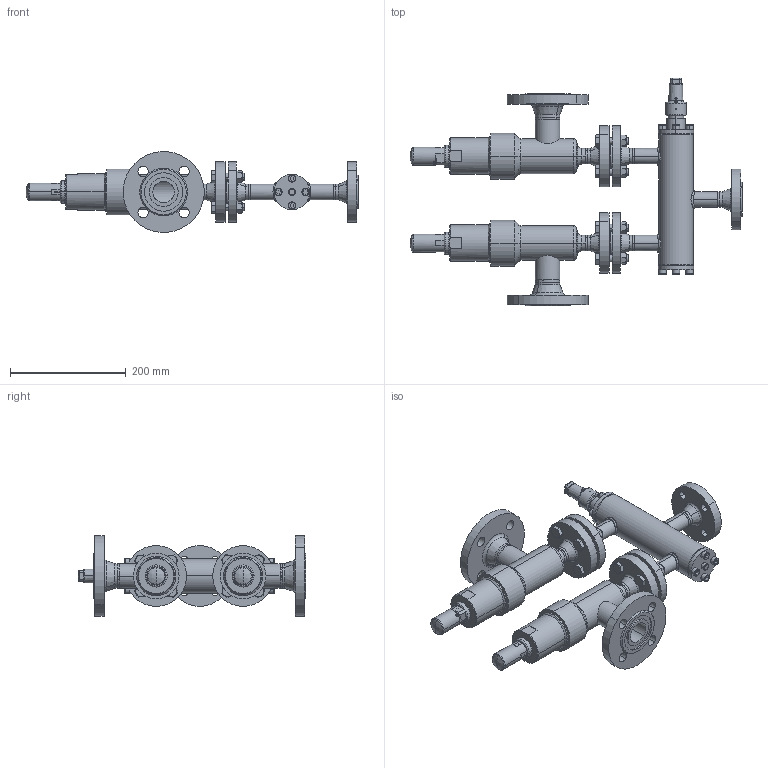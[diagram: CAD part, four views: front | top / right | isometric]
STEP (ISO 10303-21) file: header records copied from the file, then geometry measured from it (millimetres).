
FILE_DESCRIPTION (( 'STEP AP214' ), '1' );
FILE_NAME ('WVB-SVUB_1C6FL_DN20_DIN-FL.STEP', '2010-09-09T12:04:14', ( 'Eckhard Grams' ), ( 'AWP Kälte Klima Armaturen GmbH' ), 'SwSTEP 2.0', 'SolidWorks 2002296', '' );
FILE_SCHEMA (( 'AUTOMOTIVE_DESIGN' ));
Length unit declared in the file: millimetre
Products named in the file (31): WVB-SVUB_1C6FL_DN20_DIN-FL; WVB23020D11-DN020_DIN-FL-N-F_PS40_Standard; Geh,kpl24020E11-DN20_DIN-FL-N-F_PS40_Standard; Geh,kpl24000E11_DN20_R1_PS40_Standard; Gehäuse24000E11-DN20_R1_PS40_Standard; Rohrstutzen-24000E11-DN20_R1_Standard; Schw-24000E11-DN20_Standard; Flansch-DIN2635-Feder_PS40_DIN-Flansch-DN020_PS40-Feder; bead24020-11-2_Standard; bead24020-11-3_Standard; bead24020-11-1_Standard; AVB16300K10_Deck+Schr-DN10-20_Standard; Deckel16300K10-DN10-20_Standard; Zylinderschraube-DIN912_M 8x  16; Kappe 96300E10_DN6-20 (M27x2)_Standard; WVB-R23000K10_Deck+Schr-DN10-20_Standard; Deckel24000E10-DN10-20_Standard; Zylinderschraube-DIN912_M 8x  25; SVUB 45720D11-DN20(32)_DIN; Gehkpl 45720E11-5030001; Rohrstutzen-A 45700E11-5036004_DN20(32)_Standard; Flansch-DIN2635-Nut_PS40_DIN-Flansch-DN020_PS40-Nut; Geh 45700E11-5034004_DN20; Flansch-DIN2635-Nut_PS40_DIN-Flansch-DN032_PS40-Nut; bead Geh,kpl 45720E11-1_Standard; bead Geh,kpl 45720E11-2_Standard; Flachdichtg-Alu-DN20-25; Haube 45700E11-5260003_DN20-25; Kappe SVA-SVU-ORV_DN10-40 (M27x1,5)_Standard; Sechskantschraube-DIN933_M12x 50; Sechskantmutter-DIN934_M12
Assembly tree (57 placements, depth 5):
  WVB-SVUB_1C6FL_DN20_DIN-FL
    Sechskantmutter-DIN934_M12  x8
    Sechskantschraube-DIN933_M12x 50  x8
    WVB23020D11-DN020_DIN-FL-N-F_PS40_Standard
      Kappe 96300E10_DN6-20 (M27x2)_Standard
      WVB-R23000K10_Deck+Schr-DN10-20_Standard
        Deckel24000E10-DN10-20_Standard
        Zylinderschraube-DIN912_M 8x  25  x4
      Geh,kpl24020E11-DN20_DIN-FL-N-F_PS40_Standard
        bead24020-11-2_Standard
        Geh,kpl24000E11_DN20_R1_PS40_Standard
          Rohrstutzen-24000E11-DN20_R1_Standard  x3
          Schw-24000E11-DN20_Standard  x3
          Gehäuse24000E11-DN20_R1_PS40_Standard
        Flansch-DIN2635-Nut_PS40_DIN-Flansch-DN020_PS40-Nut
        bead24020-11-3_Standard
        Flansch-DIN2635-Feder_PS40_DIN-Flansch-DN020_PS40-Feder  x2
        bead24020-11-1_Standard
      AVB16300K10_Deck+Schr-DN10-20_Standard
        Zylinderschraube-DIN912_M 8x  16  x4
        Deckel16300K10-DN10-20_Standard
    SVUB 45720D11-DN20(32)_DIN  x2
      Flachdichtg-Alu-DN20-25
      Haube 45700E11-5260003_DN20-25
      Kappe SVA-SVU-ORV_DN10-40 (M27x1,5)_Standard
      Gehkpl 45720E11-5030001
        Rohrstutzen-A 45700E11-5036004_DN20(32)_Standard
        Flansch-DIN2635-Nut_PS40_DIN-Flansch-DN032_PS40-Nut
        bead Geh,kpl 45720E11-2_Standard
        Flansch-DIN2635-Nut_PS40_DIN-Flansch-DN020_PS40-Nut
        bead Geh,kpl 45720E11-1_Standard
        Geh 45700E11-5034004_DN20
Bounding box: 573 x 392.5 x 139.47 mm (x, y, z)
Volume: 2536900 mm3; surface area: 678602.3 mm2
Topology: 58 solids, 58 shells, 1359 faces, 3167 edges, 1975 vertices
Faces by surface type: cylinder 502, plane 379, cone 317, torus 99, bspline 54, sphere 8
Entity records: 42750 total; most frequent: CARTESIAN_POINT 26129, DIRECTION 3049, ORIENTED_EDGE 2862, EDGE_CURVE 1431, AXIS2_PLACEMENT_3D 1293, VERTEX_POINT 894, EDGE_LOOP 719, CIRCLE 654
